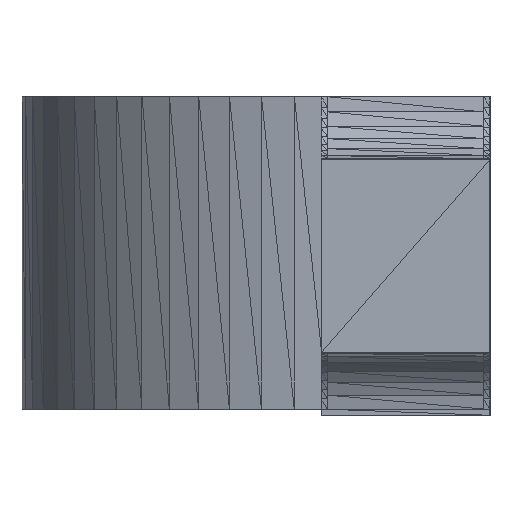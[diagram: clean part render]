
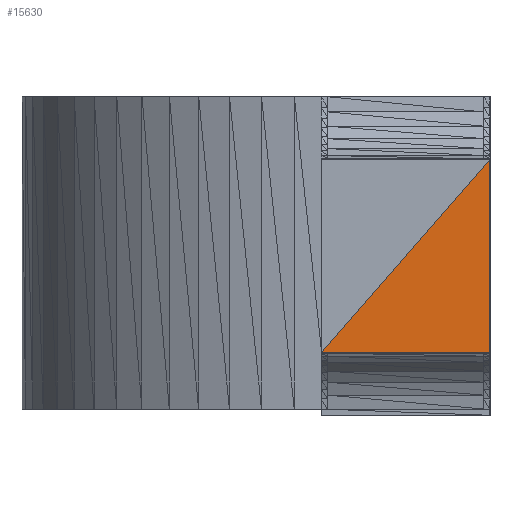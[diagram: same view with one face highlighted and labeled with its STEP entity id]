
A CAD part, left-side view. The second image highlights one B-rep face of the part: STEP entity #15630.
In plain terms, the highlighted planar face has unit normal (-1, 0, 0).
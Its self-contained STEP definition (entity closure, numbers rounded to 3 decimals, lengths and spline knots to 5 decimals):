
#475=DIRECTION('',(0.0,-1.0,0.0));
#476=VECTOR('',#475,1000.0);
#1185=DIRECTION('',(-1.0,-0.0,-0.0));
#9274=CARTESIAN_POINT('',(-1.62,-0.77,1.05));
#9275=VERTEX_POINT('',#9274);
#9276=CARTESIAN_POINT('',(-1.62,-0.77,0.43));
#9277=VERTEX_POINT('',#9276);
#9296=CARTESIAN_POINT('',(-1.62,-0.23,0.43));
#9297=VERTEX_POINT('',#9296);
#15434=DIRECTION('',(0.0,0.0,-1.0));
#15435=VECTOR('',#15434,1000.0);
#15436=LINE('',#9274,#15435);
#15437=EDGE_CURVE('',#9275,#9277,#15436,.T.);
#15605=DIRECTION('',(0.0,-0.657,0.754));
#15606=VECTOR('',#15605,1000.0);
#15607=LINE('',#9296,#15606);
#15608=EDGE_CURVE('',#9297,#9275,#15607,.T.);
#15620=LINE('',#9296,#476);
#15621=EDGE_CURVE('',#9297,#9277,#15620,.T.);
#15622=ORIENTED_EDGE('',*,*,#15608,.F.);
#15623=ORIENTED_EDGE('',*,*,#15621,.T.);
#15624=ORIENTED_EDGE('',*,*,#15437,.F.);
#15625=DIRECTION('',(0.0,0.657,-0.754));
#15626=AXIS2_PLACEMENT_3D('',#9274,#1185,#15625);
#15627=PLANE('',#15626);
#15628=EDGE_LOOP('',(#15622,#15623,#15624));
#15629=FACE_BOUND('',#15628,.T.);
#15630=ADVANCED_FACE('',(#15629),#15627,.T.);
